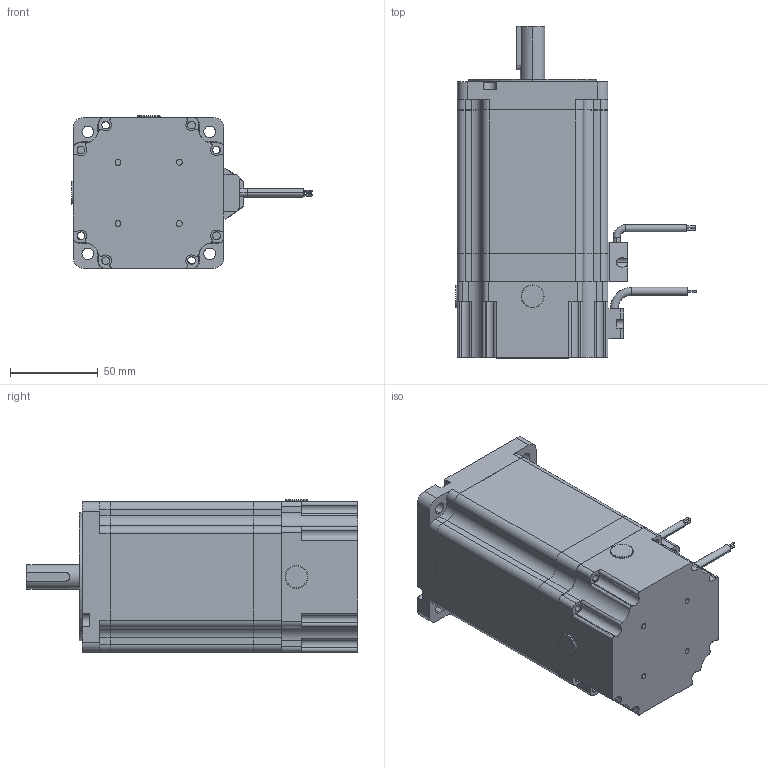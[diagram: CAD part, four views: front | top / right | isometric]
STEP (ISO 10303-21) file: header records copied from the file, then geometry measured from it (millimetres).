
FILE_DESCRIPTION (( 'STEP AP214' ), '1' );
FILE_NAME ('86HS2114-6004B-XXX.STEP', '2023-11-25T09:01:19', ( 'MM' ), ( 'Microsoft' ), 'SwSTEP 2.0', 'SolidWorks 2020', '' );
FILE_SCHEMA (( 'AUTOMOTIVE_DESIGN' ));
Length unit declared in the file: millimetre
Products named in the file (1): 86HS2114-6004B-XXX
Bounding box: 137.5 x 189.5 x 87 mm (x, y, z)
Volume: 964328.3 mm3; surface area: 109932.6 mm2
Topology: 4 solids, 4 shells, 365 faces, 966 edges, 635 vertices
Faces by surface type: cylinder 199, plane 142, torus 12, cone 12
Entity records: 12795 total; most frequent: DIRECTION 2133, CARTESIAN_POINT 2016, ORIENTED_EDGE 1932, EDGE_CURVE 966, AXIS2_PLACEMENT_3D 808, VERTEX_POINT 635, VECTOR 517, LINE 517
